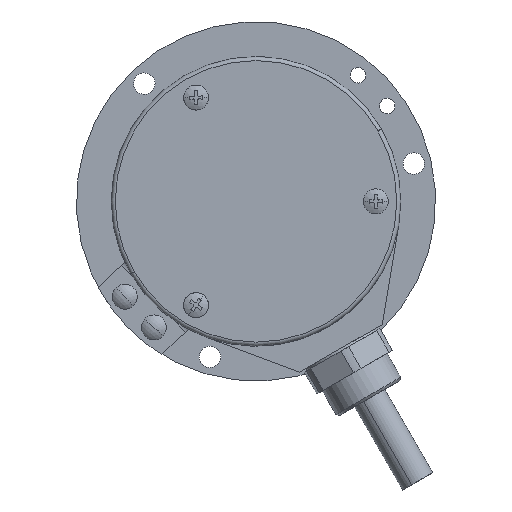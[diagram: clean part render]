
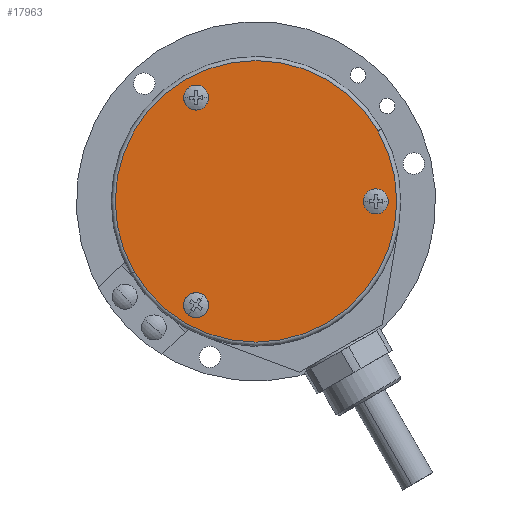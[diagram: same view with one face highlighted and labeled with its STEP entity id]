
A CAD part, left-side view. The second image highlights one B-rep face of the part: STEP entity #17963.
In plain terms, the highlighted planar face has unit normal (-1, 0, 0).
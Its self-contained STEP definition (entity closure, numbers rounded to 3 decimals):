
#21 = AXIS2_PLACEMENT_3D ( 'NONE', #16136, #7252, #17635 ) ;
#206 = ORIENTED_EDGE ( 'NONE', *, *, #10642, .F. ) ;
#483 = FACE_BOUND ( 'NONE', #500, .T. ) ;
#500 = EDGE_LOOP ( 'NONE', ( #660, #5712 ) ) ;
#545 = AXIS2_PLACEMENT_3D ( 'NONE', #9877, #972, #11360 ) ;
#660 = ORIENTED_EDGE ( 'NONE', *, *, #2889, .F. ) ;
#972 = DIRECTION ( 'NONE',  ( -1., 0., 0. ) ) ;
#1476 = ORIENTED_EDGE ( 'NONE', *, *, #17162, .F. ) ;
#1680 = AXIS2_PLACEMENT_3D ( 'NONE', #3125, #13482, #4632 ) ;
#1947 = CARTESIAN_POINT ( 'NONE',  ( -34.5, -24.422, 14.1 ) ) ;
#2269 = VERTEX_POINT ( 'NONE', #5392 ) ;
#2889 = EDGE_CURVE ( 'NONE', #14613, #2269, #12159, .T. ) ;
#3056 = DIRECTION ( 'NONE',  ( -1., 0., 0. ) ) ;
#3125 = CARTESIAN_POINT ( 'NONE',  ( -34.5, 12., -20.785 ) ) ;
#3379 = CARTESIAN_POINT ( 'NONE',  ( -34.5, 0., 0. ) ) ;
#3568 = CARTESIAN_POINT ( 'NONE',  ( -34.5, 12., -20.785 ) ) ;
#3593 = CIRCLE ( 'NONE', #1680, 2.5 ) ;
#3771 = CARTESIAN_POINT ( 'NONE',  ( -34.5, 0., 0. ) ) ;
#4007 = ORIENTED_EDGE ( 'NONE', *, *, #14334, .T. ) ;
#4097 = EDGE_CURVE ( 'NONE', #12341, #15964, #18619, .T. ) ;
#4202 = VERTEX_POINT ( 'NONE', #13883 ) ;
#4548 = EDGE_LOOP ( 'NONE', ( #6758, #4007 ) ) ;
#4632 = DIRECTION ( 'NONE',  ( 0., -0.866, 0.5 ) ) ;
#4694 = CARTESIAN_POINT ( 'NONE',  ( -34.5, 24.422, -14.1 ) ) ;
#4886 = DIRECTION ( 'NONE',  ( 0., 0.866, -0.5 ) ) ;
#4902 = FACE_BOUND ( 'NONE', #13886, .T. ) ;
#5086 = DIRECTION ( 'NONE',  ( 0., -0.866, 0.5 ) ) ;
#5265 = VERTEX_POINT ( 'NONE', #15752 ) ;
#5268 = EDGE_CURVE ( 'NONE', #2269, #14613, #18960, .T. ) ;
#5286 = ORIENTED_EDGE ( 'NONE', *, *, #8173, .F. ) ;
#5294 = DIRECTION ( 'NONE',  ( 0., 0.866, -0.5 ) ) ;
#5392 = CARTESIAN_POINT ( 'NONE',  ( -34.5, -21.835, -1.25 ) ) ;
#5712 = ORIENTED_EDGE ( 'NONE', *, *, #5268, .F. ) ;
#6124 = CIRCLE ( 'NONE', #9410, 2.5 ) ;
#6202 = DIRECTION ( 'NONE',  ( -1., 0., 0. ) ) ;
#6268 = DIRECTION ( 'NONE',  ( 1., 0., 0. ) ) ;
#6612 = EDGE_LOOP ( 'NONE', ( #1476, #206 ) ) ;
#6758 = ORIENTED_EDGE ( 'NONE', *, *, #4097, .T. ) ;
#7252 = DIRECTION ( 'NONE',  ( -1., 0., 0. ) ) ;
#7365 = AXIS2_PLACEMENT_3D ( 'NONE', #3379, #13743, #4886 ) ;
#8173 = EDGE_CURVE ( 'NONE', #5265, #10422, #6124, .T. ) ;
#9410 = AXIS2_PLACEMENT_3D ( 'NONE', #3568, #13940, #5086 ) ;
#9877 = CARTESIAN_POINT ( 'NONE',  ( -34.5, -24., 0. ) ) ;
#10422 = VERTEX_POINT ( 'NONE', #13680 ) ;
#10642 = EDGE_CURVE ( 'NONE', #4202, #11691, #16327, .T. ) ;
#11187 = AXIS2_PLACEMENT_3D ( 'NONE', #15048, #6202, #16560 ) ;
#11321 = AXIS2_PLACEMENT_3D ( 'NONE', #11951, #3056, #13433 ) ;
#11360 = DIRECTION ( 'NONE',  ( 0., -0.866, 0.5 ) ) ;
#11691 = VERTEX_POINT ( 'NONE', #16251 ) ;
#11846 = FACE_OUTER_BOUND ( 'NONE', #4548, .T. ) ;
#11951 = CARTESIAN_POINT ( 'NONE',  ( -34.5, 12., 20.785 ) ) ;
#12145 = PLANE ( 'NONE',  #19154 ) ;
#12159 = CIRCLE ( 'NONE', #11187, 2.5 ) ;
#12341 = VERTEX_POINT ( 'NONE', #4694 ) ;
#12881 = CIRCLE ( 'NONE', #17346, 28.2 ) ;
#13009 = CIRCLE ( 'NONE', #11321, 2.5 ) ;
#13433 = DIRECTION ( 'NONE',  ( 0., -0.866, 0.5 ) ) ;
#13482 = DIRECTION ( 'NONE',  ( -1., 0., 0. ) ) ;
#13680 = CARTESIAN_POINT ( 'NONE',  ( -34.5, 9.835, -19.535 ) ) ;
#13743 = DIRECTION ( 'NONE',  ( -1., 0., 0. ) ) ;
#13883 = CARTESIAN_POINT ( 'NONE',  ( -34.5, 14.165, 19.535 ) ) ;
#13886 = EDGE_LOOP ( 'NONE', ( #14983, #5286 ) ) ;
#13940 = DIRECTION ( 'NONE',  ( -1., 0., 0. ) ) ;
#14140 = DIRECTION ( 'NONE',  ( -1., 0., 0. ) ) ;
#14334 = EDGE_CURVE ( 'NONE', #15964, #12341, #12881, .T. ) ;
#14563 = EDGE_CURVE ( 'NONE', #10422, #5265, #3593, .T. ) ;
#14613 = VERTEX_POINT ( 'NONE', #18040 ) ;
#14983 = ORIENTED_EDGE ( 'NONE', *, *, #14563, .F. ) ;
#15048 = CARTESIAN_POINT ( 'NONE',  ( -34.5, -24., 0. ) ) ;
#15110 = CARTESIAN_POINT ( 'NONE',  ( -34.5, 0., 0. ) ) ;
#15752 = CARTESIAN_POINT ( 'NONE',  ( -34.5, 14.165, -22.035 ) ) ;
#15774 = FACE_BOUND ( 'NONE', #6612, .T. ) ;
#15964 = VERTEX_POINT ( 'NONE', #1947 ) ;
#16136 = CARTESIAN_POINT ( 'NONE',  ( -34.5, 12., 20.785 ) ) ;
#16251 = CARTESIAN_POINT ( 'NONE',  ( -34.5, 9.835, 22.035 ) ) ;
#16327 = CIRCLE ( 'NONE', #21, 2.5 ) ;
#16560 = DIRECTION ( 'NONE',  ( 0., -0.866, 0.5 ) ) ;
#16631 = DIRECTION ( 'NONE',  ( 0., 0.866, -0.5 ) ) ;
#17162 = EDGE_CURVE ( 'NONE', #11691, #4202, #13009, .T. ) ;
#17346 = AXIS2_PLACEMENT_3D ( 'NONE', #3771, #14140, #5294 ) ;
#17635 = DIRECTION ( 'NONE',  ( 0., -0.866, 0.5 ) ) ;
#17963 = ADVANCED_FACE ( 'NONE', ( #4902, #483, #15774, #11846 ), #12145, .F. ) ;
#18040 = CARTESIAN_POINT ( 'NONE',  ( -34.5, -26.165, 1.25 ) ) ;
#18619 = CIRCLE ( 'NONE', #7365, 28.2 ) ;
#18960 = CIRCLE ( 'NONE', #545, 2.5 ) ;
#19154 = AXIS2_PLACEMENT_3D ( 'NONE', #15110, #6268, #16631 ) ;
